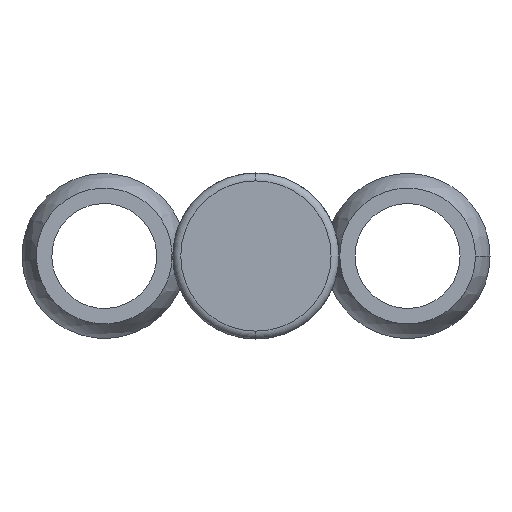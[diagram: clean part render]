
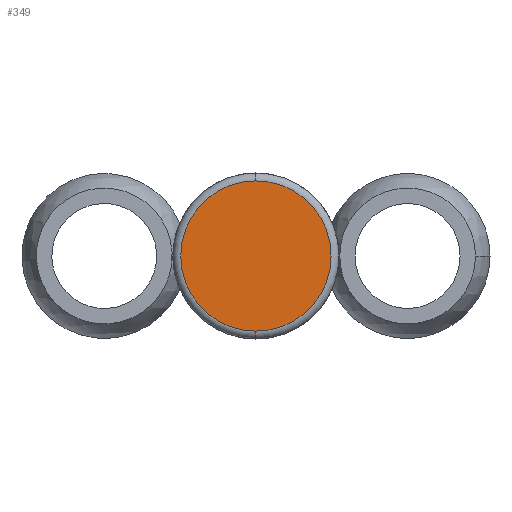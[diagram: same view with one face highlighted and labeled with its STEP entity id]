
A CAD part, front view. The second image highlights one B-rep face of the part: STEP entity #349.
In plain terms, the highlighted planar face has unit normal (0, -1, 0).
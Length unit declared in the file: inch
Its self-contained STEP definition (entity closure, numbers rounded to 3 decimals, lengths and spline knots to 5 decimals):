
#72 = DIRECTION ( 'NONE',  ( 0., 0., 1. ) ) ;
#90 = CARTESIAN_POINT ( 'NONE',  ( 0., -1.063, 0. ) ) ;
#173 = CIRCLE ( 'NONE', #944, 0.28496 ) ;
#180 = CARTESIAN_POINT ( 'NONE',  ( 0., -1.063, 0. ) ) ;
#185 = VERTEX_POINT ( 'NONE', #527 ) ;
#210 = DIRECTION ( 'NONE',  ( 0., 1., 0. ) ) ;
#349 = ADVANCED_FACE ( 'NONE', ( #378 ), #1202, .F. ) ;
#375 = ORIENTED_EDGE ( 'NONE', *, *, #471, .T. ) ;
#378 = FACE_OUTER_BOUND ( 'NONE', #1606, .T. ) ;
#461 = CARTESIAN_POINT ( 'NONE',  ( 0., -1.063, 0. ) ) ;
#466 = DIRECTION ( 'NONE',  ( 0., -1., 0. ) ) ;
#471 = EDGE_CURVE ( 'NONE', #504, #185, #173, .T. ) ;
#487 = DIRECTION ( 'NONE',  ( 0., 0., 1. ) ) ;
#504 = VERTEX_POINT ( 'NONE', #1582 ) ;
#527 = CARTESIAN_POINT ( 'NONE',  ( 0., -1.063, 0.28496 ) ) ;
#712 = ORIENTED_EDGE ( 'NONE', *, *, #987, .T. ) ;
#783 = CIRCLE ( 'NONE', #1251, 0.28496 ) ;
#909 = DIRECTION ( 'NONE',  ( 0., 0., 1. ) ) ;
#944 = AXIS2_PLACEMENT_3D ( 'NONE', #90, #466, #487 ) ;
#987 = EDGE_CURVE ( 'NONE', #185, #504, #783, .T. ) ;
#1172 = DIRECTION ( 'NONE',  ( 0., -1., 0. ) ) ;
#1202 = PLANE ( 'NONE',  #1318 ) ;
#1251 = AXIS2_PLACEMENT_3D ( 'NONE', #180, #1172, #909 ) ;
#1318 = AXIS2_PLACEMENT_3D ( 'NONE', #461, #210, #72 ) ;
#1582 = CARTESIAN_POINT ( 'NONE',  ( 0., -1.063, -0.28496 ) ) ;
#1606 = EDGE_LOOP ( 'NONE', ( #712, #375 ) ) ;
